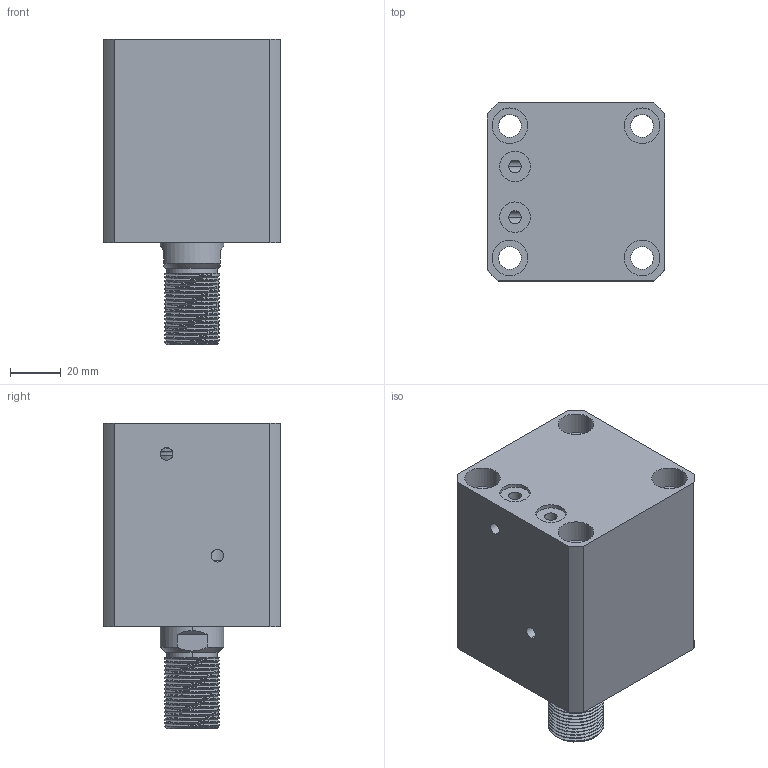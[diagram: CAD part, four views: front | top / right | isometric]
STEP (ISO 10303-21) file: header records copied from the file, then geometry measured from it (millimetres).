
FILE_DESCRIPTION (( 'STEP AP214' ), '1' );
FILE_NAME ('chtb-sdmb40x25w_asm.STEP', '2018-06-07T01:25:36', ( 'Windows' ), ( 'Microsoft' ), 'SwSTEP 2.0', 'SolidWorks 2015', '' );
FILE_SCHEMA (( 'AUTOMOTIVE_DESIGN' ));
Length unit declared in the file: millimetre
Products named in the file (4): CHTB-SD40X25WHSG; CHTB-SDMB40X25NBT; CHTB-SD40QG; chtb-sdmb40x25w_asm
Assembly tree (3 placements, depth 2):
  chtb-sdmb40x25w_asm
    CHTB-SD40QG
    CHTB-SDMB40X25NBT
    CHTB-SD40X25WHSG
Bounding box: 70 x 70 x 120 mm (x, y, z)
Volume: 352985.6 mm3; surface area: 76326.2 mm2
Topology: 3 solids, 4 shells, 201 faces, 539 edges, 359 vertices
Faces by surface type: cylinder 122, plane 38, bspline 16, torus 14, cone 11
Entity records: 13455 total; most frequent: CARTESIAN_POINT 8586, ORIENTED_EDGE 1066, DIRECTION 904, EDGE_CURVE 533, AXIS2_PLACEMENT_3D 374, VERTEX_POINT 359, EDGE_LOOP 238, ADVANCED_FACE 201
